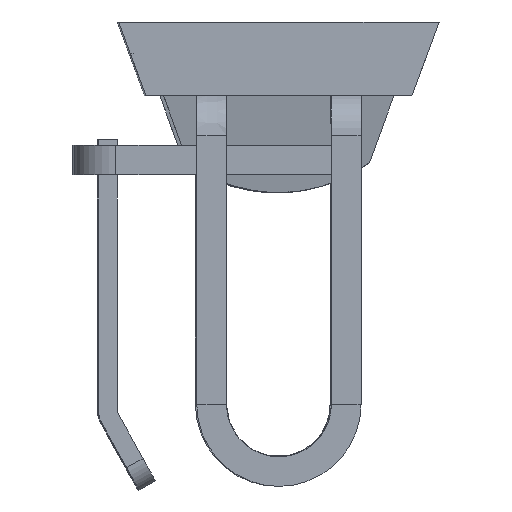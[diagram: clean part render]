
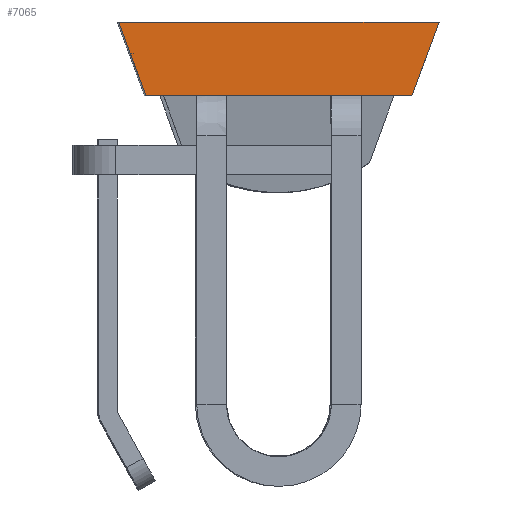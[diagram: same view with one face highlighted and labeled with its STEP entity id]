
A CAD part, left-side view. The second image highlights one B-rep face of the part: STEP entity #7065.
In plain terms, the highlighted planar face has unit normal (-1, -0.001, 0) as drawn and (0, 0, 1) by its records, which use the part's own axes.
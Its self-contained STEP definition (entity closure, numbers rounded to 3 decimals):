
#341=FACE_OUTER_BOUND('',#741,.T.);
#741=EDGE_LOOP('',(#5174,#5175,#5176,#5177));
#1257=LINE('',#10734,#2070);
#1262=LINE('',#10743,#2075);
#1276=LINE('',#10777,#2089);
#1278=LINE('',#10780,#2091);
#2070=VECTOR('',#8451,10.);
#2075=VECTOR('',#8458,10.);
#2089=VECTOR('',#8498,10.);
#2091=VECTOR('',#8502,10.);
#3039=VERTEX_POINT('',#10731);
#3040=VERTEX_POINT('',#10733);
#3043=VERTEX_POINT('',#10741);
#3050=VERTEX_POINT('',#10776);
#3816=EDGE_CURVE('',#3040,#3039,#1257,.T.);
#3821=EDGE_CURVE('',#3039,#3043,#1262,.T.);
#3838=EDGE_CURVE('',#3050,#3040,#1276,.T.);
#3840=EDGE_CURVE('',#3043,#3050,#1278,.T.);
#5174=ORIENTED_EDGE('',*,*,#3816,.T.);
#5175=ORIENTED_EDGE('',*,*,#3821,.T.);
#5176=ORIENTED_EDGE('',*,*,#3840,.T.);
#5177=ORIENTED_EDGE('',*,*,#3838,.T.);
#6779=PLANE('',#7548);
#7065=ADVANCED_FACE('',(#341),#6779,.T.);
#7548=AXIS2_PLACEMENT_3D('',#10781,#8503,#8504);
#8451=DIRECTION('',(0.,-1.,0.));
#8458=DIRECTION('',(0.939,0.345,0.));
#8498=DIRECTION('',(-0.939,0.345,0.));
#8502=DIRECTION('',(0.,1.,0.));
#8503=DIRECTION('center_axis',(0.,0.,1.));
#8504=DIRECTION('ref_axis',(1.,0.,0.));
#10731=CARTESIAN_POINT('',(-10.214,-50.791,458.));
#10733=CARTESIAN_POINT('',(-10.214,8.663,458.));
#10734=CARTESIAN_POINT('',(-10.214,-39.573,458.));
#10741=CARTESIAN_POINT('',(3.486,-45.761,458.));
#10743=CARTESIAN_POINT('',(3.486,-45.761,458.));
#10776=CARTESIAN_POINT('',(3.486,3.633,458.));
#10777=CARTESIAN_POINT('',(-13.214,9.764,458.));
#10780=CARTESIAN_POINT('',(3.486,-21.064,458.));
#10781=CARTESIAN_POINT('Origin',(-5.563,-21.064,458.));
